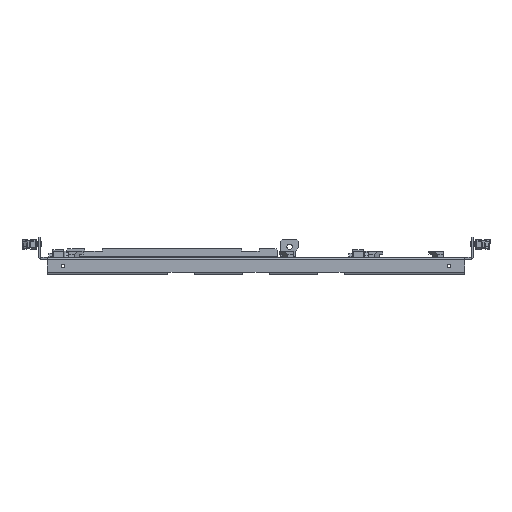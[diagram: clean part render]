
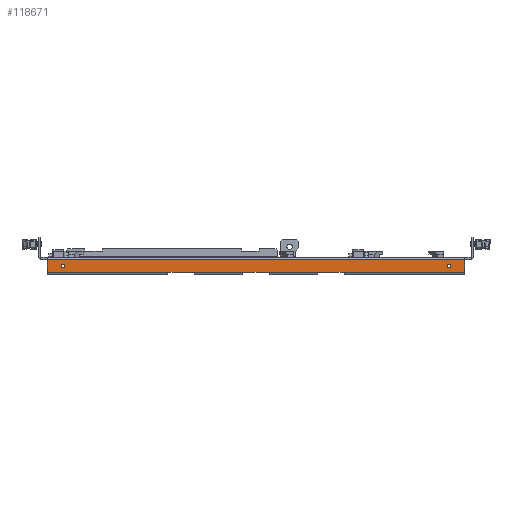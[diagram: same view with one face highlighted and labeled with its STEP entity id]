
A CAD part, front view. The second image highlights one B-rep face of the part: STEP entity #118671.
In plain terms, the highlighted planar face has unit normal (0, -1, 0).
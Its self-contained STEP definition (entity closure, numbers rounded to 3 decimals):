
#65676=CARTESIAN_POINT(' ',(239.5,-211.7,-2.6));
#65677=VERTEX_POINT(' ',#65676);
#65691=CARTESIAN_POINT(' ',(239.5,-211.7,-17.4));
#65696=DIRECTION(' ',(0.,0.,1.));
#65701=VECTOR(' ',#65696,1.);
#65706=LINE('',#65691,#65701);
#65711=CARTESIAN_POINT(' ',(239.5,-211.7,-17.4));
#65712=VERTEX_POINT(' ',#65711);
#65716=EDGE_CURVE(' ',#65712,#65677,#65706,.T.);
#66356=CARTESIAN_POINT(' ',(-239.5,-211.7,-17.4));
#66357=VERTEX_POINT(' ',#66356);
#66371=CARTESIAN_POINT(' ',(-239.5,-211.7,-2.6));
#66376=DIRECTION(' ',(0.,0.,-1.));
#66381=VECTOR(' ',#66376,1.);
#66386=LINE('',#66371,#66381);
#66391=CARTESIAN_POINT(' ',(-239.5,-211.7,-2.6));
#66392=VERTEX_POINT(' ',#66391);
#66396=EDGE_CURVE(' ',#66392,#66357,#66386,.T.);
#117071=CARTESIAN_POINT(' ',(-239.5,-211.7,-2.6));
#117076=DIRECTION(' ',(1.,0.,0.));
#117081=VECTOR(' ',#117076,1.);
#117086=LINE('',#117071,#117081);
#117091=EDGE_CURVE(' ',#66392,#65677,#117086,.T.);
#118201=DIRECTION(' ',(0.,-1.,0.));
#118206=CARTESIAN_POINT(' ',(-239.5,-211.7,-17.4));
#118211=DIRECTION(' ',(1.,0.,0.));
#118216=AXIS2_PLACEMENT_3D(' ',#118206,#118201,#118211);
#118221=PLANE('NONE',#118216);
#118226=ORIENTED_EDGE(' ',*,*,#117091,.F.);
#118231=ORIENTED_EDGE(' ',*,*,#66396,.T.);
#118236=CARTESIAN_POINT(' ',(-239.5,-211.7,-17.4));
#118241=DIRECTION(' ',(1.,0.,0.));
#118246=VECTOR(' ',#118241,1.);
#118251=LINE('',#118236,#118246);
#118256=CARTESIAN_POINT(' ',(-101.,-211.7,-17.4));
#118257=VERTEX_POINT(' ',#118256);
#118261=EDGE_CURVE(' ',#66357,#118257,#118251,.T.);
#118266=ORIENTED_EDGE(' ',*,*,#118261,.T.);
#118271=CARTESIAN_POINT(' ',(-71.,-211.7,-17.4));
#118276=DIRECTION(' ',(-1.,0.,0.));
#118281=VECTOR(' ',#118276,1.);
#118286=LINE('',#118271,#118281);
#118291=CARTESIAN_POINT(' ',(-71.,-211.7,-17.4));
#118292=VERTEX_POINT(' ',#118291);
#118296=EDGE_CURVE(' ',#118292,#118257,#118286,.T.);
#118301=ORIENTED_EDGE(' ',*,*,#118296,.F.);
#118306=CARTESIAN_POINT(' ',(-71.,-211.7,-17.4));
#118311=DIRECTION(' ',(1.,0.,0.));
#118316=VECTOR(' ',#118311,1.);
#118321=LINE('',#118306,#118316);
#118326=CARTESIAN_POINT(' ',(-15.,-211.7,-17.4));
#118327=VERTEX_POINT(' ',#118326);
#118331=EDGE_CURVE(' ',#118292,#118327,#118321,.T.);
#118336=ORIENTED_EDGE(' ',*,*,#118331,.T.);
#118341=CARTESIAN_POINT(' ',(15.,-211.7,-17.4));
#118346=DIRECTION(' ',(-1.,0.,0.));
#118351=VECTOR(' ',#118346,1.);
#118356=LINE('',#118341,#118351);
#118361=CARTESIAN_POINT(' ',(15.,-211.7,-17.4));
#118362=VERTEX_POINT(' ',#118361);
#118366=EDGE_CURVE(' ',#118362,#118327,#118356,.T.);
#118371=ORIENTED_EDGE(' ',*,*,#118366,.F.);
#118376=CARTESIAN_POINT(' ',(15.,-211.7,-17.4));
#118381=DIRECTION(' ',(1.,0.,0.));
#118386=VECTOR(' ',#118381,1.);
#118391=LINE('',#118376,#118386);
#118396=CARTESIAN_POINT(' ',(71.,-211.7,-17.4));
#118397=VERTEX_POINT(' ',#118396);
#118401=EDGE_CURVE(' ',#118362,#118397,#118391,.T.);
#118406=ORIENTED_EDGE(' ',*,*,#118401,.T.);
#118411=CARTESIAN_POINT(' ',(101.,-211.7,-17.4));
#118416=DIRECTION(' ',(-1.,0.,0.));
#118421=VECTOR(' ',#118416,1.);
#118426=LINE('',#118411,#118421);
#118431=CARTESIAN_POINT(' ',(101.,-211.7,-17.4));
#118432=VERTEX_POINT(' ',#118431);
#118436=EDGE_CURVE(' ',#118432,#118397,#118426,.T.);
#118441=ORIENTED_EDGE(' ',*,*,#118436,.F.);
#118446=CARTESIAN_POINT(' ',(101.,-211.7,-17.4));
#118451=DIRECTION(' ',(1.,0.,0.));
#118456=VECTOR(' ',#118451,1.);
#118461=LINE('',#118446,#118456);
#118466=EDGE_CURVE(' ',#118432,#65712,#118461,.T.);
#118471=ORIENTED_EDGE(' ',*,*,#118466,.T.);
#118476=ORIENTED_EDGE(' ',*,*,#65716,.T.);
#118481=EDGE_LOOP(' ',(#118226,#118231,#118266,#118301,#118336,#118371,#118406,#118441,#118471,#118476));
#118486=FACE_OUTER_BOUND(' ',#118481,.T.);
#118491=CARTESIAN_POINT(' ',(-221.5,-211.7,-10.));
#118496=DIRECTION(' ',(-0.,-1.,0.));
#118501=DIRECTION(' ',(0.,0.,-1.));
#118506=AXIS2_PLACEMENT_3D(' ',#118491,#118496,#118501);
#118511=CIRCLE('',#118506,2.2);
#118516=CARTESIAN_POINT(' ',(-221.5,-211.7,-12.2));
#118517=VERTEX_POINT(' ',#118516);
#118521=CARTESIAN_POINT(' ',(-221.5,-211.7,-7.8));
#118522=VERTEX_POINT(' ',#118521);
#118526=EDGE_CURVE(' ',#118517,#118522,#118511,.T.);
#118531=ORIENTED_EDGE(' ',*,*,#118526,.F.);
#118536=CARTESIAN_POINT(' ',(-221.5,-211.7,-10.));
#118541=DIRECTION(' ',(0.,-1.,0.));
#118546=DIRECTION(' ',(0.,0.,1.));
#118551=AXIS2_PLACEMENT_3D(' ',#118536,#118541,#118546);
#118556=CIRCLE('',#118551,2.2);
#118561=EDGE_CURVE(' ',#118522,#118517,#118556,.T.);
#118566=ORIENTED_EDGE(' ',*,*,#118561,.F.);
#118571=EDGE_LOOP(' ',(#118531,#118566));
#118576=FACE_BOUND(' ',#118571,.T.);
#118581=CARTESIAN_POINT(' ',(221.5,-211.7,-10.));
#118586=DIRECTION(' ',(-0.,-1.,0.));
#118591=DIRECTION(' ',(0.,0.,-1.));
#118596=AXIS2_PLACEMENT_3D(' ',#118581,#118586,#118591);
#118601=CIRCLE('',#118596,2.2);
#118606=CARTESIAN_POINT(' ',(221.5,-211.7,-12.2));
#118607=VERTEX_POINT(' ',#118606);
#118611=CARTESIAN_POINT(' ',(221.5,-211.7,-7.8));
#118612=VERTEX_POINT(' ',#118611);
#118616=EDGE_CURVE(' ',#118607,#118612,#118601,.T.);
#118621=ORIENTED_EDGE(' ',*,*,#118616,.F.);
#118626=CARTESIAN_POINT(' ',(221.5,-211.7,-10.));
#118631=DIRECTION(' ',(0.,-1.,0.));
#118636=DIRECTION(' ',(0.,0.,1.));
#118641=AXIS2_PLACEMENT_3D(' ',#118626,#118631,#118636);
#118646=CIRCLE('',#118641,2.2);
#118651=EDGE_CURVE(' ',#118612,#118607,#118646,.T.);
#118656=ORIENTED_EDGE(' ',*,*,#118651,.F.);
#118661=EDGE_LOOP(' ',(#118621,#118656));
#118666=FACE_BOUND(' ',#118661,.T.);
#118671=ADVANCED_FACE('NONE',(#118486,#118576,#118666),#118221,.T.);
